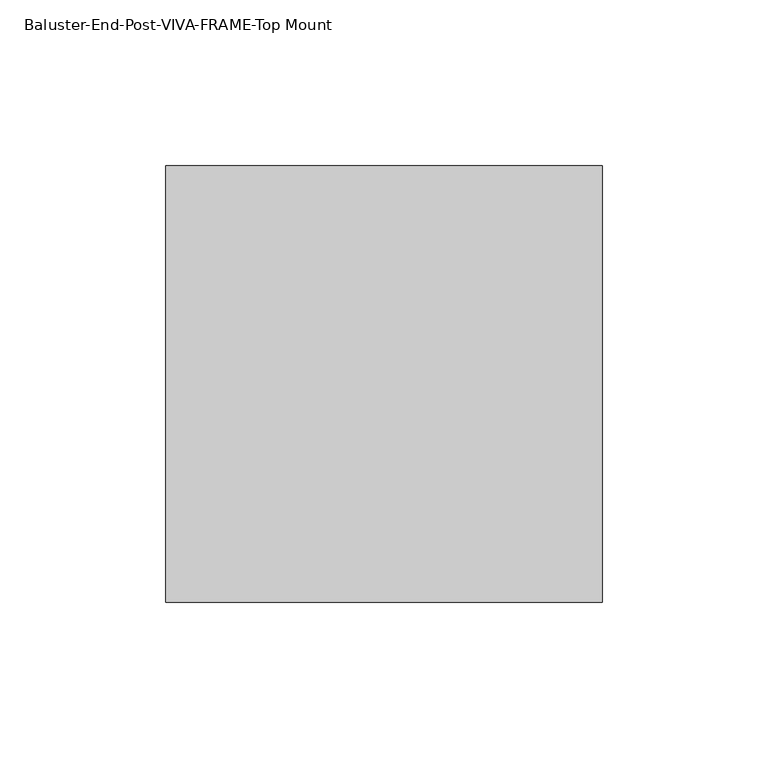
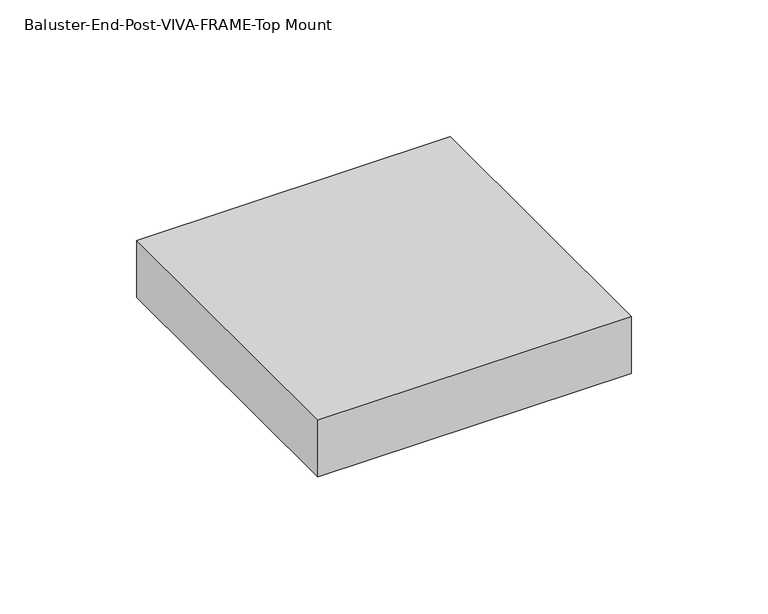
"""IFC4 building model written with IfcOpenShell, lengths in millimetres: proxy geometry, Baluster-End-Post-VIVA-FRAME-Top Mount : ANCHORED TO CONCRETE_TOP MOUNT FOLD_STRAIGHT."""

from ifc_helpers import new_model, si_unit, frame, origin, place, context, project, spatial, polyline, outline, extrude, source, transform, mapped, element, save


def baluster_end_post_viva_frame_top_mount_a3f933ec(model_context):
    return source(origin(), model_context, "Body", "SweptSolid", [
        extrude(outline(polyline([(-66.0, -34.5052567), (66.0, -34.5052567), (66.0, -166.5052567), (-66.0, -166.5052567), (-66.0, -34.5052567)])), frame((0.0, 0.0, 0.5143555), z_axis=(0.0, 0.0, 1.0), x_axis=(1.0, 0.0, 0.0)), (0.0, 0.0, 1.0), 25.4),
    ])


if __name__ == "__main__":
    model = new_model("IFC4")
    model_context = context("Model", 3, world=origin())
    ifc_project = project(units=[si_unit("LENGTHUNIT", "METRE", prefix="MILLI")], contexts=[model_context])
    site = spatial("IfcSite", under=ifc_project)
    building = spatial("IfcBuilding", under=site)
    placement = place(None, origin())
    baluster_end_post_viva_frame_top_mount_shape = baluster_end_post_viva_frame_top_mount_a3f933ec(model_context)
    element("IfcBuildingElementProxy", 1, Name="Baluster-End-Post-VIVA-FRAME-Top Mount : ANCHORED TO CONCRETE_TOP MOUNT FOLD_STRAIGHT", ObjectType="Baluster-End-Post-VIVA-FRAME-Top Mount : ANCHORED TO CONCRETE_TOP MOUNT FOLD_STRAIGHT", at=placement, inside=building, context=model_context, shape_type="MappedRepresentation", body=[
        mapped(baluster_end_post_viva_frame_top_mount_shape, transform((0.0, 0.0, 0.0), x_axis=(1.0, 0.0, 0.0), y_axis=(0.0, 1.0, 0.0), z_axis=(0.0, 0.0, 1.0))),
    ])
    save(model, "model.ifc")
